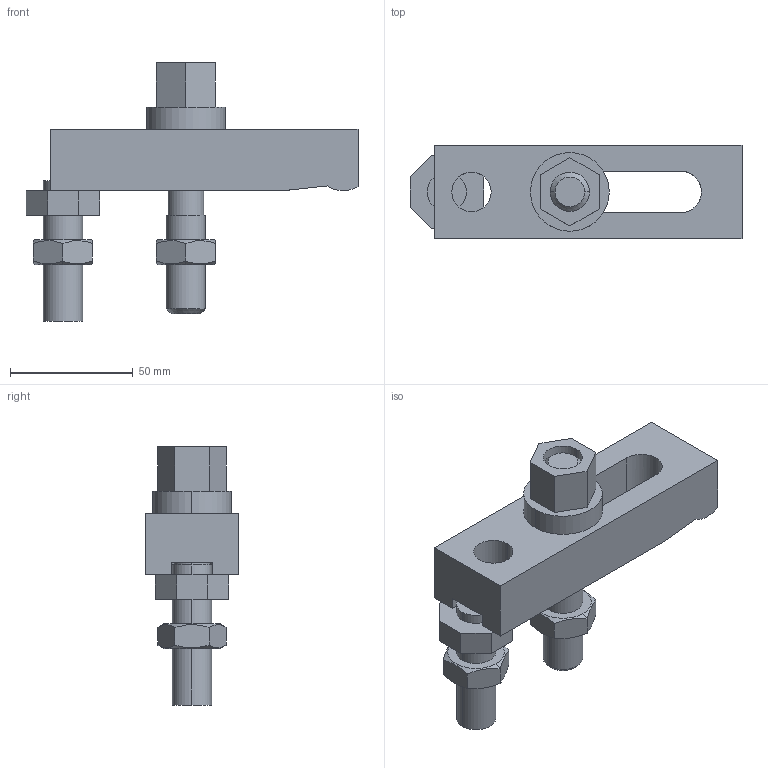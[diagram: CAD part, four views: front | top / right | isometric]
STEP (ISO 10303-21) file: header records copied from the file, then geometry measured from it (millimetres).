
FILE_DESCRIPTION (( 'STEP AP203' ), '1' );
FILE_NAME ('bj156-16125a1.STEP', '2021-10-25T01:19:20', ( '' ), ( '' ), 'SwSTEP 2.0', 'SolidWorks 2020', '' );
FILE_SCHEMA (( 'CONFIG_CONTROL_DESIGN' ));
Length unit declared in the file: millimetre
Products named in the file (7): bj156-16125a1_03; bj156-16125a1_01; bj156-16125a1_02; bj156-16125a1; bj156-16125a1_04; bj156-16125a1_06; bj156-16125a1_05
Assembly tree (6 placements, depth 2):
  bj156-16125a1
    bj156-16125a1_01
    bj156-16125a1_02
    bj156-16125a1_03
    bj156-16125a1_04
    bj156-16125a1_05
    bj156-16125a1_06
Bounding box: 135 x 38 x 105 mm (x, y, z)
Volume: 137729 mm3; surface area: 38850.3 mm2
Topology: 6 solids, 6 shells, 88 faces, 204 edges, 132 vertices
Faces by surface type: plane 52, cylinder 24, cone 12
Entity records: 3468 total; most frequent: CARTESIAN_POINT 700, DIRECTION 432, ORIENTED_EDGE 408, EDGE_CURVE 204, AXIS2_PLACEMENT_3D 156, VERTEX_POINT 132, VECTOR 120, LINE 120
